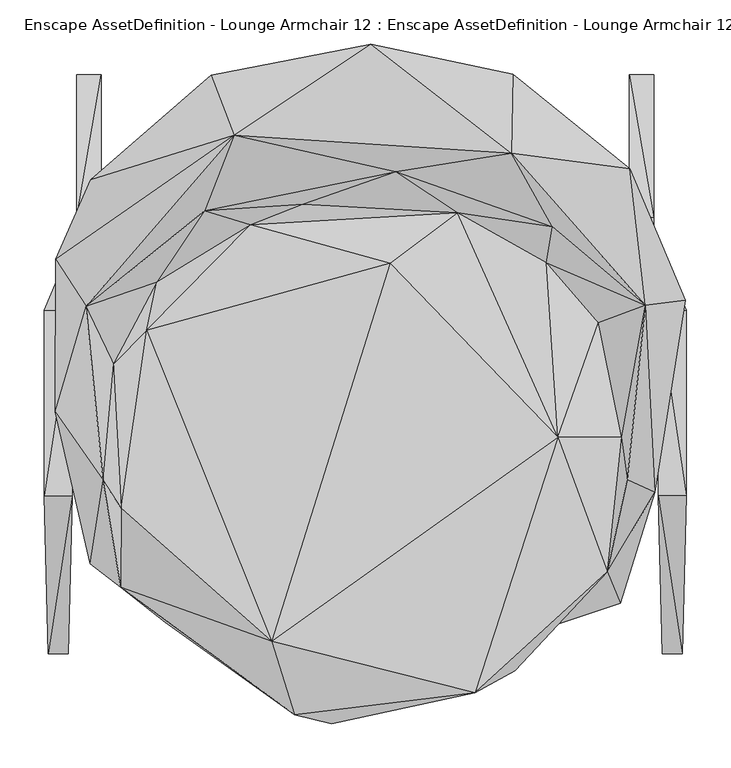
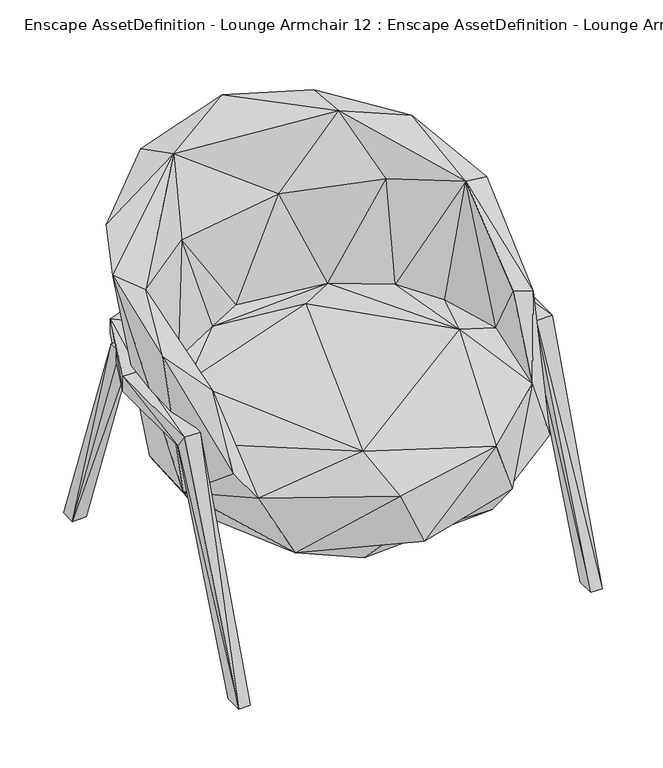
"""IFC4 building model written with IfcOpenShell, lengths in millimetres: geographic element geometry, Enscape AssetDefinition - Lounge Armchair 12 : Enscape AssetDefinition - Lounge Armchair 12."""

from ifc_helpers import new_model, si_unit, origin, place, context, project, spatial, faceted_brep, source, transform, mapped, element, save


def enscape_assetdefinition_lounge_armchair_12_enscape_3d8580c7(model_context):
    return source(origin(), model_context, "Body", "Brep", [
        faceted_brep([(335.6344998, -276.470691, -1.6500409), (358.2775891, -276.470691, -1.6500409), (335.7466459, -312.6561046, -1.1681312), (362.8635108, -112.6069576, 427.4138808), (358.1654429, -312.6561046, -1.1681312), (331.1752081, -134.4194859, 458.1295252), (331.2140405, -112.3626754, 427.5837839), (362.9035056, -134.1785192, 458.2960904), (362.7513647, 75.1246065, 458.4493041), (362.7591431, 75.1523674, 427.3073077), (331.5249979, 75.042434, 458.4759772), (331.5172195, 75.0690922, 427.2806644), (295.6948578, 233.8572145, 427.3073077), (295.6926525, 233.852759, 458.4382176), (271.3362277, 214.3098861, 458.4748447), (271.3328898, 214.3243253, 427.2706509), (0.0, 336.4861906, 427.2895157), (0.0, 336.4861906, 458.4581852), (0.0, 305.2486777, 458.4581852), (0.0, 305.2486777, 427.2895157), (-295.6948578, 233.8572145, 427.3073077), (-295.6926525, 233.852759, 458.4382176), (-271.3328898, 214.3243253, 427.2706509), (-271.3362277, 214.3098861, 458.4748447), (-331.5172195, 75.0690922, 427.2806644), (-362.7591431, 75.1523674, 427.3073077), (-362.7513647, 75.1246065, 458.4493041), (-331.5249979, 75.042434, 458.4759772), (-331.2140405, -112.3626754, 427.5837839), (-362.8635108, -112.6069576, 427.4138808), (-362.9035056, -134.1785192, 458.2960904), (-331.1752081, -134.4194859, 458.1295252), (-335.6344998, -276.470691, -1.6500409), (-335.7466459, -312.6561046, -1.1681312), (-358.2775891, -276.470691, -1.6500409), (-358.1654429, -312.6561046, -1.1681312)], [[[0, 1, 2]], [[1, 0, 3]], [[2, 1, 4]], [[3, 4, 1]], [[2, 4, 5]], [[0, 2, 6]], [[6, 2, 5]], [[3, 0, 6]], [[7, 4, 3]], [[7, 3, 8]], [[3, 6, 9]], [[8, 3, 9]], [[5, 4, 7]], [[5, 7, 10]], [[10, 6, 5]], [[11, 6, 10]], [[9, 6, 11]], [[9, 11, 12]], [[8, 9, 13]], [[13, 9, 12]], [[8, 13, 10]], [[10, 7, 8]], [[10, 14, 11]], [[10, 13, 14]], [[12, 11, 15]], [[11, 14, 15]], [[12, 16, 13]], [[12, 15, 16]], [[13, 17, 14]], [[13, 16, 17]], [[14, 18, 15]], [[14, 17, 18]], [[15, 18, 19]], [[16, 15, 19]], [[20, 21, 16]], [[19, 22, 16]], [[16, 21, 17]], [[16, 22, 20]], [[21, 23, 17]], [[17, 23, 18]], [[23, 22, 18]], [[18, 22, 19]], [[22, 24, 20]], [[23, 24, 22]], [[20, 24, 25]], [[25, 21, 20]], [[26, 27, 21]], [[26, 21, 25]], [[21, 27, 23]], [[27, 24, 23]], [[27, 28, 24]], [[28, 25, 24]], [[29, 25, 28]], [[29, 26, 25]], [[30, 26, 29]], [[30, 27, 26]], [[31, 28, 27]], [[31, 27, 30]], [[32, 28, 33]], [[32, 29, 28]], [[33, 28, 31]], [[34, 29, 32]], [[34, 35, 29]], [[29, 35, 30]], [[35, 31, 30]], [[33, 31, 35]], [[35, 34, 33]], [[33, 34, 32]]]),
        faceted_brep([(298.4242141, 149.054423, 450.8031607), (326.1084855, 149.054423, 450.8031607), (298.4242141, 179.445833, 450.8031607), (326.1084855, 311.0615909, 0.0), (326.1084855, 179.445833, 450.8031607), (298.4242141, 341.4540887, 0.0), (298.4242141, 311.0615909, 0.0), (326.1096179, 341.4540887, 0.0)], [[[0, 1, 2]], [[1, 0, 3]], [[2, 1, 4]], [[3, 4, 1]], [[2, 4, 5]], [[0, 2, 6]], [[6, 2, 5]], [[3, 0, 6]], [[6, 5, 3]], [[7, 4, 3]], [[3, 5, 7]], [[5, 4, 7]]]),
        faceted_brep([(-298.4242141, 149.054423, 450.8031607), (-298.4242141, 179.4469357, 450.8031607), (-326.1084855, 149.054423, 450.8031607), (-298.4242141, 341.4540887, 0.0), (-326.1084855, 179.4469357, 450.8031607), (-298.4242141, 311.0615909, 0.0), (-326.1084855, 311.0615909, 0.0), (-326.1084855, 341.4540887, 0.0)], [[[0, 1, 2]], [[1, 3, 4]], [[0, 5, 1]], [[2, 1, 4]], [[1, 5, 3]], [[2, 6, 0]], [[2, 4, 6]], [[0, 6, 5]], [[5, 6, 3]], [[3, 6, 7]], [[4, 3, 7]], [[6, 4, 7]]]),
        faceted_brep([(-335.295856, -82.3210552, 303.2799363), (-311.0749125, -211.1696899, 410.9856486), (-350.7191837, -39.3311568, 564.1251802), (-276.41958, -237.7213538, 363.750726), (-296.3189185, -116.810903, 521.1797357), (-315.6608045, 79.4107169, 620.12887), (-349.997431, 132.558465, 630.1201582), (-275.7144868, -148.4226286, 419.6922481), (-284.6598029, 14.7604262, 416.761905), (-235.8314842, 106.8062782, 431.3468933), (-181.6732734, 187.7027005, 611.617744), (-148.4015137, 272.9662955, 726.9762754), (-319.5160925, 59.1694005, 286.4009142), (-310.3831112, 222.249195, 666.5010452), (-251.1482239, 208.502546, 358.8183522), (-235.8470261, 121.8720675, 237.5548035), (-296.9385087, -87.5620916, 243.1756109), (-174.3236035, 340.2626216, 705.9543133), (-65.867275, 254.3183863, 274.0056217), (-113.4708524, -316.2337542, 230.3539217), (184.0794832, 166.4675921, 235.1463735), (-226.1632979, -276.920408, 256.9711208), (-81.8835571, -334.3842328, 261.9811893), (-79.864867, -381.6091418, 386.5193129), (-38.5394469, -391.6959465, 284.570992), (144.8826939, -303.8884401, 232.7834517), (169.1747159, -331.6993117, 284.7653031), (123.8685399, -356.9307029, 404.5320749), (-105.7880521, -298.5263765, 439.2983913), (-247.195214, 52.4004586, 421.2700725), (28.0484743, 128.3978373, 440.5331612), (217.4045444, -68.0547506, 440.0379062), (273.3393908, -220.3892767, 399.4020522), (287.8344059, -255.5364668, 310.118854), (326.9312978, -130.2466244, 518.4770226), (295.9524989, -116.0047576, 521.019876), (289.4589007, -68.4200674, 418.6917543), (292.0761108, -105.8680043, 242.6504046), (332.4610293, -90.575695, 307.0708215), (361.2234592, 86.6093859, 614.3559217), (316.2748516, 80.8786526, 623.4989166), (263.2448077, 61.0759407, 407.4801505), (211.0397965, 169.7010398, 611.9630337), (204.5351118, 129.0607452, 419.4423854), (298.5896766, 234.8210216, 674.1982698), (165.0029719, 252.1264851, 719.4977403), (104.2057425, 185.417518, 421.6687083), (34.2955329, 231.6453159, 605.6126952), (6.1404621, 375.4675984, 733.8096499), (166.6397005, 341.3752615, 709.1711164), (-70.6641674, 194.8336363, 432.7737391), (74.0886107, 252.4351478, 275.8688331), (219.4743156, 227.9066145, 358.6862683), (304.9044609, 143.5946375, 357.7457368), (331.3495219, 11.4525715, 283.7637365), (-129.7225207, 171.5776026, 423.1855273)], [[[0, 1, 2]], [[1, 3, 4]], [[0, 3, 1]], [[4, 2, 1]], [[4, 5, 2]], [[6, 0, 2]], [[6, 2, 5]], [[7, 4, 3]], [[8, 4, 7]], [[5, 4, 8]], [[5, 8, 9]], [[5, 9, 10]], [[11, 6, 5]], [[10, 11, 5]], [[6, 12, 0]], [[13, 12, 6]], [[13, 6, 11]], [[14, 15, 12]], [[0, 12, 16]], [[13, 14, 12]], [[12, 15, 16]], [[17, 13, 11]], [[17, 14, 13]], [[17, 18, 14]], [[15, 14, 18]], [[15, 19, 16]], [[15, 20, 19]], [[18, 20, 15]], [[16, 21, 0]], [[21, 16, 19]], [[0, 21, 3]], [[21, 19, 22]], [[21, 23, 3]], [[23, 21, 24]], [[24, 21, 22]], [[25, 22, 19]], [[20, 25, 19]], [[22, 26, 24]], [[25, 26, 22]], [[24, 27, 23]], [[26, 27, 24]], [[28, 3, 23]], [[27, 28, 23]], [[7, 3, 28]], [[29, 7, 28]], [[30, 29, 28]], [[30, 28, 31]], [[27, 31, 28]], [[32, 27, 26]], [[32, 31, 27]], [[25, 32, 26]], [[25, 33, 32]], [[34, 32, 33]], [[35, 36, 32]], [[36, 31, 32]], [[34, 35, 32]], [[37, 33, 25]], [[37, 38, 33]], [[38, 34, 33]], [[38, 39, 34]], [[40, 35, 34]], [[39, 40, 34]], [[40, 36, 35]], [[41, 36, 40]], [[41, 31, 36]], [[42, 43, 40]], [[40, 43, 41]], [[44, 40, 39]], [[40, 45, 42]], [[45, 40, 44]], [[41, 43, 31]], [[43, 42, 46]], [[43, 46, 31]], [[42, 45, 47]], [[42, 47, 46]], [[45, 11, 47]], [[48, 45, 49]], [[49, 45, 44]], [[48, 11, 45]], [[11, 10, 47]], [[46, 47, 50]], [[47, 10, 50]], [[48, 17, 11]], [[17, 48, 18]], [[48, 51, 18]], [[49, 51, 48]], [[52, 49, 44]], [[49, 52, 51]], [[51, 20, 18]], [[52, 20, 51]], [[52, 53, 20]], [[44, 53, 52]], [[44, 39, 53]], [[53, 39, 54]], [[20, 53, 54]], [[20, 54, 37]], [[20, 37, 25]], [[38, 37, 54]], [[54, 39, 38]], [[50, 55, 46]], [[50, 10, 55]], [[30, 55, 29]], [[55, 9, 29]], [[10, 9, 55]], [[30, 46, 55]], [[31, 46, 30]], [[9, 8, 29]], [[29, 8, 7]]]),
    ])


if __name__ == "__main__":
    model = new_model("IFC4")
    model_context = context("Model", 3, world=origin())
    ifc_project = project(units=[si_unit("LENGTHUNIT", "METRE", prefix="MILLI")], contexts=[model_context])
    site = spatial("IfcSite", under=ifc_project)
    building = spatial("IfcBuilding", under=site)
    placement = place(None, origin())
    enscape_assetdefinition_lounge_armchair_12_enscape_shape = enscape_assetdefinition_lounge_armchair_12_enscape_3d8580c7(model_context)
    element("IfcGeographicElement", 1, ObjectType="Enscape AssetDefinition - Lounge Armchair 12 : Enscape AssetDefinition - Lounge Armchair 12", at=placement, inside=building, context=model_context, shape_type="MappedRepresentation", body=[
        mapped(enscape_assetdefinition_lounge_armchair_12_enscape_shape, transform((0.0, 0.0, 0.0), x_axis=(1.0, 0.0, 0.0), y_axis=(0.0, 1.0, 0.0), z_axis=(0.0, 0.0, 1.0))),
    ])
    save(model, "model.ifc")
